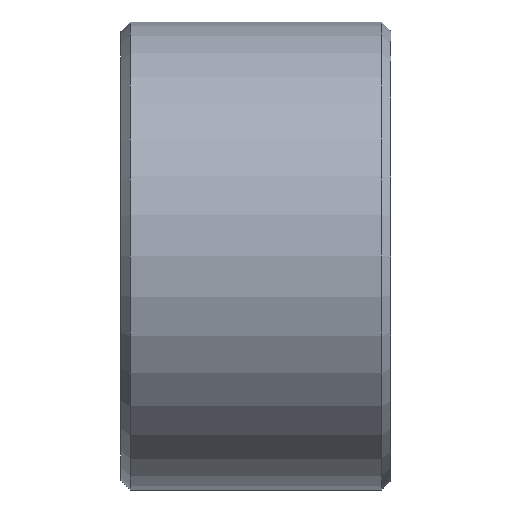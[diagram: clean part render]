
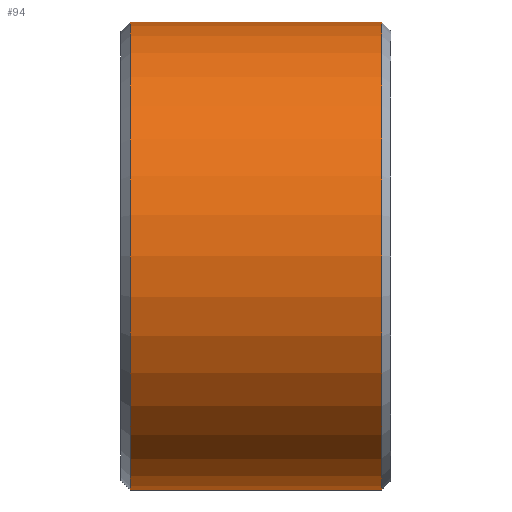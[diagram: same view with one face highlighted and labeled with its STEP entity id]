
A CAD part, front view. The second image highlights one B-rep face of the part: STEP entity #94.
In plain terms, the highlighted cylindrical face has radius 13 mm (diameter 26 mm), a partial arc.
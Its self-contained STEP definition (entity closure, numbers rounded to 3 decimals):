
#2 = EDGE_CURVE ( 'NONE', #256, #314, #310, .T. ) ;
#10 = CARTESIAN_POINT ( 'NONE',  ( 7., 0., 13. ) ) ;
#14 = CARTESIAN_POINT ( 'NONE',  ( 7., 0., -13. ) ) ;
#20 = ORIENTED_EDGE ( 'NONE', *, *, #349, .T. ) ;
#37 = CARTESIAN_POINT ( 'NONE',  ( -7., 0., -13. ) ) ;
#43 = ORIENTED_EDGE ( 'NONE', *, *, #188, .F. ) ;
#51 = ORIENTED_EDGE ( 'NONE', *, *, #2, .T. ) ;
#53 = DIRECTION ( 'NONE',  ( 0., 0., -1. ) ) ;
#65 = DIRECTION ( 'NONE',  ( -1., 0., 0. ) ) ;
#94 = ADVANCED_FACE ( 'NONE', ( #392 ), #134, .T. ) ;
#97 = VERTEX_POINT ( 'NONE', #10 ) ;
#113 = CARTESIAN_POINT ( 'NONE',  ( -7., 0., 13. ) ) ;
#126 = LINE ( 'NONE', #266, #366 ) ;
#134 = CYLINDRICAL_SURFACE ( 'NONE', #276, 13. ) ;
#135 = AXIS2_PLACEMENT_3D ( 'NONE', #171, #408, #53 ) ;
#171 = CARTESIAN_POINT ( 'NONE',  ( 7., 0., 0. ) ) ;
#172 = DIRECTION ( 'NONE',  ( 0., 0., 1. ) ) ;
#178 = CIRCLE ( 'NONE', #135, 13. ) ;
#188 = EDGE_CURVE ( 'NONE', #275, #314, #222, .T. ) ;
#209 = EDGE_LOOP ( 'NONE', ( #43, #20, #280, #51 ) ) ;
#222 = LINE ( 'NONE', #337, #334 ) ;
#256 = VERTEX_POINT ( 'NONE', #113 ) ;
#262 = DIRECTION ( 'NONE',  ( 1., 0., 0. ) ) ;
#266 = CARTESIAN_POINT ( 'NONE',  ( 7.5, 0., 13. ) ) ;
#275 = VERTEX_POINT ( 'NONE', #14 ) ;
#276 = AXIS2_PLACEMENT_3D ( 'NONE', #329, #372, #172 ) ;
#280 = ORIENTED_EDGE ( 'NONE', *, *, #401, .T. ) ;
#310 = CIRCLE ( 'NONE', #409, 13. ) ;
#314 = VERTEX_POINT ( 'NONE', #37 ) ;
#329 = CARTESIAN_POINT ( 'NONE',  ( 7.5, 0., 0. ) ) ;
#334 = VECTOR ( 'NONE', #65, 1000. ) ;
#337 = CARTESIAN_POINT ( 'NONE',  ( 7.5, 0., -13. ) ) ;
#349 = EDGE_CURVE ( 'NONE', #275, #97, #178, .T. ) ;
#353 = CARTESIAN_POINT ( 'NONE',  ( -7., 0., 0. ) ) ;
#366 = VECTOR ( 'NONE', #400, 1000. ) ;
#372 = DIRECTION ( 'NONE',  ( -1., 0., 0. ) ) ;
#378 = DIRECTION ( 'NONE',  ( 0., 0., -1. ) ) ;
#392 = FACE_OUTER_BOUND ( 'NONE', #209, .T. ) ;
#400 = DIRECTION ( 'NONE',  ( -1., 0., 0. ) ) ;
#401 = EDGE_CURVE ( 'NONE', #97, #256, #126, .T. ) ;
#408 = DIRECTION ( 'NONE',  ( -1., 0., 0. ) ) ;
#409 = AXIS2_PLACEMENT_3D ( 'NONE', #353, #262, #378 ) ;
